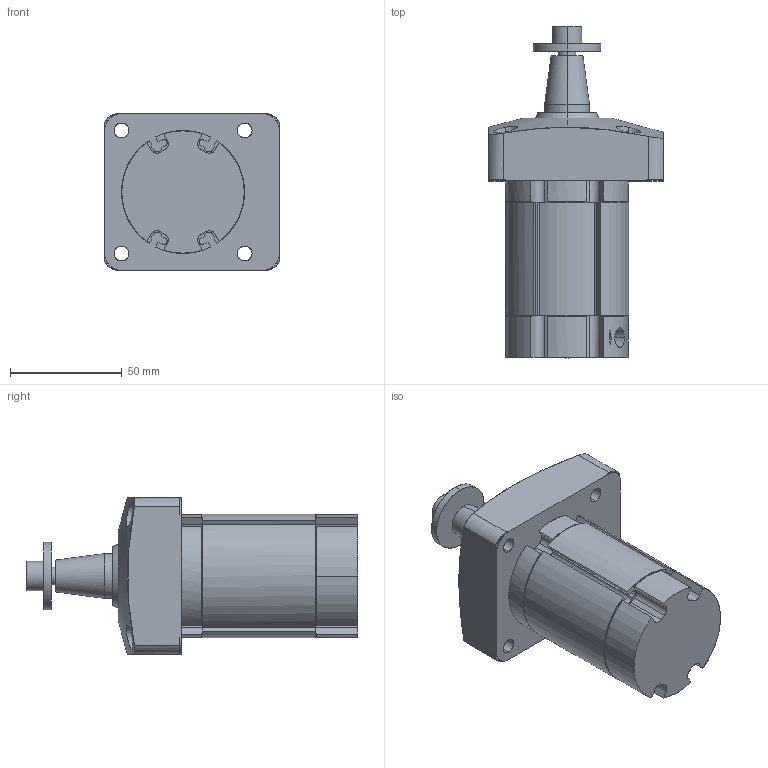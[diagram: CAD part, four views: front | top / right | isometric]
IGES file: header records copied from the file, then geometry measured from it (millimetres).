
Start section: Comment
Global section: file name: jsmh32-17.igs; native system:  By Spatial Corp.; preprocessor: XPlus GENERIC/IGES 3.0; author: Author; organization: Title; date: 20080526.115956; units: millimetre
Bounding box: 78 x 148.2 x 70 mm (x, y, z)
Surface area: 61642 mm2 (no closed solid volume)
Topology: 0 solids, 0 shells, 254 faces, 1298 edges, 1292 vertices
Faces by surface type: bspline 254
